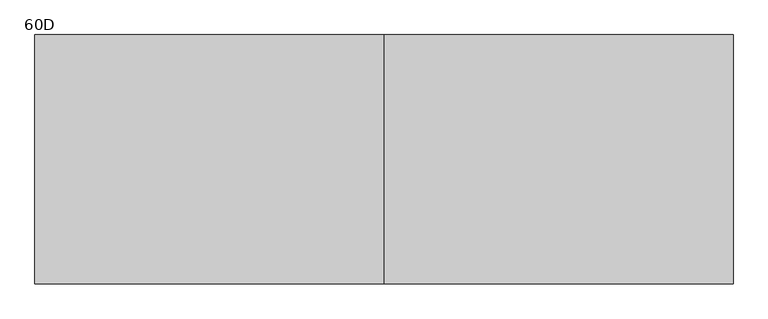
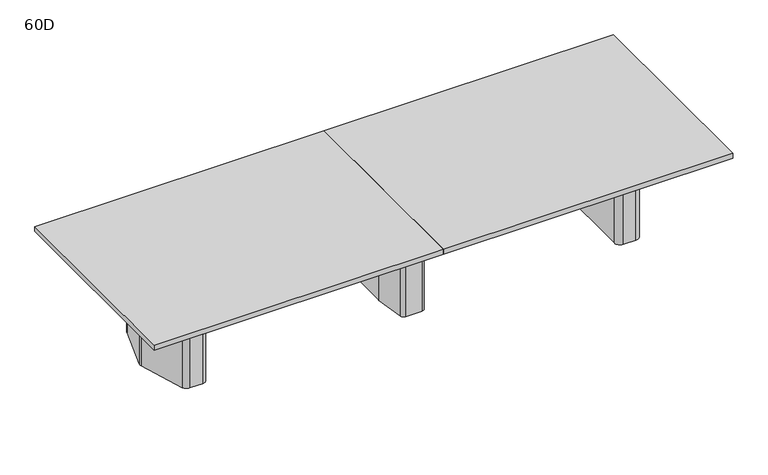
"""IFC4 building model written with IfcOpenShell, lengths in millimetres: furniture geometry, Coalesse_AM_Table_Conference_ETable2_Rectangular_14ft_ThreeBase : 60D."""

from ifc_helpers import new_model, si_unit, point, frame, frame_2d, origin, origin_with_axes, place, context, project, spatial, polyline, circle_curve, trimmed, segment, composite_curve, outline, extrude, source, transform, mapped, element, save
from ifc_brep_helpers import plane_surface, cylinder_surface, revolved_surface, advanced_brep


def furniture_60d_9320f29d(model_context):
    return source(origin(), model_context, "Body", "SolidModel", [
        advanced_brep(
        [(61.0357815, 381.0, 698.5), (-61.0357815, 381.0, 698.5), (-86.1885994, 359.1349332, 698.5), (-117.2278179, 138.2753661, 698.5), (-117.475, 134.740433, 698.5), (-117.475, -134.7404196, 698.5), (-117.2278463, -138.2751502, 698.5), (-86.1904395, -359.1347306, 698.5), (-61.0375932, -381.0, 698.5), (61.0375932, -381.0, 698.5), (86.1904395, -359.1347306, 698.5), (117.2278463, -138.2751502, 698.5), (117.475, -134.7404196, 698.5), (117.475, 134.740433, 698.5), (117.2278179, 138.2753661, 698.5), (86.1885994, 359.1349332, 698.5), (25.4, 314.325, 698.5), (50.8, 288.925, 698.5), (50.8, -288.925, 698.5), (25.4, -314.325, 698.5), (-25.4, -314.325, 698.5), (-50.8, -288.925, 698.5), (-50.8, 288.925, 698.5), (-25.4, 314.325, 698.5), (61.0357815, 381.0, 3.175), (86.1885994, 359.1349332, 3.175), (117.2278179, 138.2753661, 3.175), (117.475, 134.740433, 3.175), (117.475, -134.7404196, 3.175), (117.2278463, -138.2751502, 3.175), (86.1904395, -359.1347306, 3.175), (61.0375932, -381.0, 3.175), (-61.0375932, -381.0, 3.175), (-86.1904395, -359.1347306, 3.175), (-117.2278463, -138.2751502, 3.175), (-117.475, -134.7404196, 3.175), (-117.475, 134.740433, 3.175), (-117.2278179, 138.2753661, 3.175), (-86.1885994, 359.1349332, 3.175), (-61.0357815, 381.0, 3.175), (25.4, 327.025, 3.175), (-25.4, 327.025, 3.175), (-63.5, 288.925, 3.175), (-63.5, -288.925, 3.175), (-25.4, -327.025, 3.175), (25.4, -327.025, 3.175), (63.5, -288.925, 3.175), (63.5, 288.925, 3.175), (25.4, 314.325, 3.175), (50.8, 288.925, 3.175), (50.8, -288.925, 3.175), (25.4, -314.325, 3.175), (-25.4, -314.325, 3.175), (-50.8, -288.925, 3.175), (-50.8, 288.925, 3.175), (-25.4, 314.325, 3.175), (25.4, 327.025, 0.0), (63.5, 288.925, 0.0), (63.5, -288.925, 0.0), (25.4, -327.025, 0.0), (-25.4, -327.025, 0.0), (-63.5, -288.925, 0.0), (-63.5, 288.925, 0.0), (-25.4, 327.025, 0.0)],
        [
            (0, 1),
            (1, 2, circle_curve(frame((-61.0357815, 355.6, 698.5), z_axis=(0.0, 0.0, 1.0), x_axis=(1.0, 0.0, 0.0)), 25.4)),
            (2, 3),
            (3, 4, circle_curve(frame((-92.075, 134.740433, 698.5), z_axis=(0.0, 0.0, 1.0), x_axis=(1.0, 0.0, 0.0)), 25.4)),
            (4, 5),
            (5, 6, circle_curve(frame((-92.075, -134.7404196, 698.5), z_axis=(0.0, 0.0, 1.0), x_axis=(1.0, 0.0, 0.0)), 25.4)),
            (6, 7),
            (7, 8, circle_curve(frame((-61.0375932, -355.6, 698.5), z_axis=(0.0, 0.0, 1.0), x_axis=(1.0, 0.0, 0.0)), 25.4)),
            (8, 9),
            (9, 10, circle_curve(frame((61.0375932, -355.6, 698.5), z_axis=(0.0, 0.0, 1.0), x_axis=(1.0, 0.0, 0.0)), 25.4)),
            (10, 11),
            (11, 12, circle_curve(frame((92.075, -134.7404196, 698.5), z_axis=(0.0, 0.0, 1.0), x_axis=(1.0, 0.0, 0.0)), 25.4)),
            (12, 13),
            (13, 14, circle_curve(frame((92.075, 134.740433, 698.5), z_axis=(0.0, 0.0, 1.0), x_axis=(1.0, 0.0, 0.0)), 25.4)),
            (14, 15),
            (15, 0, circle_curve(frame((61.0357815, 355.6, 698.5), z_axis=(0.0, 0.0, 1.0), x_axis=(1.0, 0.0, 0.0)), 25.4)),
            (16, 17, circle_curve(frame((25.4, 288.925, 698.5), z_axis=(0.0, 0.0, -1.0), x_axis=(1.0, 0.0, 0.0)), 25.4)),
            (17, 18),
            (18, 19, circle_curve(frame((25.4, -288.925, 698.5), z_axis=(0.0, 0.0, -1.0), x_axis=(1.0, 0.0, 0.0)), 25.4)),
            (19, 20),
            (20, 21, circle_curve(frame((-25.4, -288.925, 698.5), z_axis=(0.0, 0.0, -1.0), x_axis=(1.0, 0.0, 0.0)), 25.4)),
            (21, 22),
            (22, 23, circle_curve(frame((-25.4, 288.925, 698.5), z_axis=(0.0, 0.0, -1.0), x_axis=(1.0, 0.0, 0.0)), 25.4)),
            (23, 16),
            (24, 25, circle_curve(frame((61.0357815, 355.6, 3.175), z_axis=(0.0, 0.0, -1.0), x_axis=(1.0, 0.0, 0.0)), 25.4)),
            (25, 26),
            (26, 27, circle_curve(frame((92.075, 134.740433, 3.175), z_axis=(0.0, 0.0, -1.0), x_axis=(1.0, 0.0, 0.0)), 25.4)),
            (27, 28),
            (28, 29, circle_curve(frame((92.075, -134.7404196, 3.175), z_axis=(0.0, 0.0, -1.0), x_axis=(1.0, 0.0, 0.0)), 25.4)),
            (29, 30),
            (30, 31, circle_curve(frame((61.0375932, -355.6, 3.175), z_axis=(0.0, 0.0, -1.0), x_axis=(1.0, 0.0, 0.0)), 25.4)),
            (31, 32),
            (32, 33, circle_curve(frame((-61.0375932, -355.6, 3.175), z_axis=(0.0, 0.0, -1.0), x_axis=(1.0, 0.0, 0.0)), 25.4)),
            (33, 34),
            (34, 35, circle_curve(frame((-92.075, -134.7404196, 3.175), z_axis=(0.0, 0.0, -1.0), x_axis=(1.0, 0.0, 0.0)), 25.4)),
            (35, 36),
            (36, 37, circle_curve(frame((-92.075, 134.740433, 3.175), z_axis=(0.0, 0.0, -1.0), x_axis=(1.0, 0.0, 0.0)), 25.4)),
            (37, 38),
            (38, 39, circle_curve(frame((-61.0357815, 355.6, 3.175), z_axis=(0.0, 0.0, -1.0), x_axis=(1.0, 0.0, 0.0)), 25.4)),
            (39, 24),
            (40, 41),
            (41, 42, circle_curve(frame((-25.4, 288.925, 3.175), z_axis=(0.0, 0.0, 1.0), x_axis=(1.0, 0.0, 0.0)), 38.1)),
            (42, 43),
            (43, 44, circle_curve(frame((-25.4, -288.925, 3.175), z_axis=(0.0, 0.0, 1.0), x_axis=(1.0, 0.0, 0.0)), 38.1)),
            (44, 45),
            (45, 46, circle_curve(frame((25.4, -288.925, 3.175), z_axis=(0.0, 0.0, 1.0), x_axis=(1.0, 0.0, 0.0)), 38.1)),
            (46, 47),
            (47, 40, circle_curve(frame((25.4, 288.925, 3.175), z_axis=(0.0, 0.0, 1.0), x_axis=(1.0, 0.0, 0.0)), 38.1)),
            (0, 24),
            (39, 1),
            (38, 2),
            (37, 3),
            (36, 4),
            (35, 5),
            (34, 6),
            (33, 7),
            (32, 8),
            (31, 9),
            (30, 10),
            (29, 11),
            (28, 12),
            (27, 13),
            (26, 14),
            (25, 15),
            (16, 48),
            (48, 49, circle_curve(frame((25.4, 288.925, 3.175), z_axis=(0.0, 0.0, -1.0), x_axis=(1.0, 0.0, 0.0)), 25.4)),
            (49, 17),
            (49, 50),
            (50, 18),
            (50, 51, circle_curve(frame((25.4, -288.925, 3.175), z_axis=(0.0, 0.0, -1.0), x_axis=(1.0, 0.0, 0.0)), 25.4)),
            (51, 19),
            (51, 52),
            (52, 20),
            (52, 53, circle_curve(frame((-25.4, -288.925, 3.175), z_axis=(0.0, 0.0, -1.0), x_axis=(1.0, 0.0, 0.0)), 25.4)),
            (53, 21),
            (53, 54),
            (54, 22),
            (54, 55, circle_curve(frame((-25.4, 288.925, 3.175), z_axis=(0.0, 0.0, -1.0), x_axis=(1.0, 0.0, 0.0)), 25.4)),
            (55, 23),
            (55, 48),
            (56, 57, circle_curve(frame((25.4, 288.925, 0.0), z_axis=(0.0, 0.0, -1.0), x_axis=(1.0, 0.0, 0.0)), 38.1)),
            (57, 58),
            (58, 59, circle_curve(frame((25.4, -288.925, 0.0), z_axis=(0.0, 0.0, -1.0), x_axis=(1.0, 0.0, 0.0)), 38.1)),
            (59, 60),
            (60, 61, circle_curve(frame((-25.4, -288.925, 0.0), z_axis=(0.0, 0.0, -1.0), x_axis=(1.0, 0.0, 0.0)), 38.1)),
            (61, 62),
            (62, 63, circle_curve(frame((-25.4, 288.925, 0.0), z_axis=(0.0, 0.0, -1.0), x_axis=(1.0, 0.0, 0.0)), 38.1)),
            (63, 56),
            (63, 41),
            (40, 56),
            (62, 42),
            (61, 43),
            (60, 44),
            (59, 45),
            (58, 46),
            (57, 47),
        ],
        [
            plane_surface(frame((-1524.0, 381.0, 698.5), z_axis=(0.0, 0.0, 1.0), x_axis=(-1.0, 0.0, 0.0))),
            plane_surface(frame((-1524.0, 381.0, 3.175), z_axis=(0.0, 0.0, -1.0), x_axis=(1.0, 0.0, 0.0))),
            plane_surface(frame((61.0357815, 381.0, 698.5), z_axis=(0.0, 1.0, 0.0), x_axis=(0.0, 0.0, -1.0))),
            cylinder_surface(frame((-61.0357815, 355.6, 3.175), z_axis=(0.0, 0.0, 1.0), x_axis=(1.0, 0.0, 0.0)), 25.4),
            plane_surface(frame((-86.1885994, 359.1349332, 698.5), z_axis=(-0.9902684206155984, 0.13917059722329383, 0.0), x_axis=(0.0, 0.0, -1.0))),
            cylinder_surface(frame((-92.075, 134.740433, 3.175), z_axis=(0.0, 0.0, 1.0), x_axis=(1.0, 0.0, 0.0)), 25.4),
            plane_surface(frame((-117.475, 134.740433, 698.5), z_axis=(-1.0, 0.0, 0.0), x_axis=(0.0, 0.0, -1.0))),
            cylinder_surface(frame((-92.075, -134.7404196, 3.175), z_axis=(0.0, 0.0, 1.0), x_axis=(1.0, 0.0, 0.0)), 25.4),
            plane_surface(frame((-117.2278463, -138.2751502, 698.5), z_axis=(-0.9902695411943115, -0.1391626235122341, 0.0), x_axis=(0.0, 0.0, -1.0))),
            cylinder_surface(frame((-61.0375932, -355.6, 3.175), z_axis=(0.0, 0.0, 1.0), x_axis=(1.0, 0.0, 0.0)), 25.4),
            plane_surface(frame((-61.0375932, -381.0, 698.5), z_axis=(0.0, -1.0, 0.0), x_axis=(0.0, 0.0, -1.0))),
            cylinder_surface(frame((61.0375932, -355.6, 3.175), z_axis=(0.0, 0.0, 1.0), x_axis=(1.0, 0.0, 0.0)), 25.4),
            plane_surface(frame((86.1904395, -359.1347306, 698.5), z_axis=(0.9902695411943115, -0.1391626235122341, 0.0), x_axis=(0.0, 0.0, -1.0))),
            cylinder_surface(frame((92.075, -134.7404196, 3.175), z_axis=(0.0, 0.0, 1.0), x_axis=(1.0, 0.0, 0.0)), 25.4),
            plane_surface(frame((117.475, -134.7404196, 698.5), z_axis=(1.0, 0.0, 0.0), x_axis=(0.0, 0.0, -1.0))),
            cylinder_surface(frame((92.075, 134.740433, 3.175), z_axis=(0.0, 0.0, 1.0), x_axis=(1.0, 0.0, 0.0)), 25.4),
            plane_surface(frame((117.2278179, 138.2753661, 698.5), z_axis=(0.9902684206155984, 0.13917059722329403, 0.0), x_axis=(0.0, 0.0, -1.0))),
            cylinder_surface(frame((61.0357815, 355.6, 3.175), z_axis=(0.0, 0.0, 1.0), x_axis=(1.0, 0.0, 0.0)), 25.4),
            revolved_surface(polyline([(50.8, 288.925, 3.175), (50.8, 288.925, 698.5)]), (25.4, 288.925, 0.0), (0.0, 0.0, -1.0)),
            plane_surface(frame((50.8, 288.925, 698.5), z_axis=(-1.0, 0.0, 0.0), x_axis=(0.0, 0.0, -1.0))),
            revolved_surface(polyline([(50.8, -288.925, 3.175), (50.8, -288.925, 698.5)]), (25.4, -288.925, 0.0), (0.0, 0.0, -1.0)),
            plane_surface(frame((25.4, -314.325, 698.5), z_axis=(0.0, 1.0, 0.0), x_axis=(0.0, 0.0, -1.0))),
            revolved_surface(polyline([(0.0, -288.925, 3.175), (0.0, -288.925, 698.5)]), (-25.4, -288.925, 0.0), (0.0, 0.0, -1.0)),
            plane_surface(frame((-50.8, -288.925, 698.5), z_axis=(1.0, 0.0, 0.0), x_axis=(0.0, 0.0, -1.0))),
            revolved_surface(polyline([(0.0, 288.925, 3.175), (0.0, 288.925, 698.5)]), (-25.4, 288.925, 0.0), (0.0, 0.0, -1.0)),
            plane_surface(frame((-25.4, 314.325, 698.5), z_axis=(0.0, -1.0, 0.0), x_axis=(0.0, 0.0, -1.0))),
            plane_surface(frame((-50.8, 327.025, 3.175), z_axis=(0.0, 0.0, 1.0), x_axis=(-1.0, 0.0, 0.0))),
            plane_surface(frame((-50.8, 327.025, 0.0), z_axis=(0.0, 0.0, -1.0), x_axis=(1.0, 0.0, 0.0))),
            plane_surface(frame((25.4, 327.025, 3.175), z_axis=(0.0, 1.0, 0.0), x_axis=(0.0, 0.0, -1.0))),
            cylinder_surface(frame((-25.4, 288.925, 0.0), z_axis=(0.0, 0.0, 1.0), x_axis=(1.0, 0.0, 0.0)), 38.1),
            plane_surface(frame((-63.5, 288.925, 3.175), z_axis=(-1.0, 0.0, 0.0), x_axis=(0.0, 0.0, -1.0))),
            cylinder_surface(frame((-25.4, -288.925, 0.0), z_axis=(0.0, 0.0, 1.0), x_axis=(1.0, 0.0, 0.0)), 38.1),
            plane_surface(frame((-25.4, -327.025, 3.175), z_axis=(0.0, -1.0, 0.0), x_axis=(0.0, 0.0, -1.0))),
            cylinder_surface(frame((25.4, -288.925, 0.0), z_axis=(0.0, 0.0, 1.0), x_axis=(1.0, 0.0, 0.0)), 38.1),
            plane_surface(frame((63.5, -288.925, 3.175), z_axis=(1.0, 0.0, 0.0), x_axis=(0.0, 0.0, -1.0))),
            cylinder_surface(frame((25.4, 288.925, 0.0), z_axis=(0.0, 0.0, 1.0), x_axis=(1.0, 0.0, 0.0)), 38.1),
        ],
        [
            (0, [[1, 2, 3, 4, 5, 6, 7, 8, 9, 10, 11, 12, 13, 14, 15, 16], [17, 18, 19, 20, 21, 22, 23, 24]]),
            (1, [[25, 26, 27, 28, 29, 30, 31, 32, 33, 34, 35, 36, 37, 38, 39, 40], [41, 42, 43, 44, 45, 46, 47, 48]]),
            (2, [[-1, 49, -40, 50]]),
            (3, [[-2, -50, -39, 51]]),
            (4, [[-3, -51, -38, 52]]),
            (5, [[-4, -52, -37, 53]]),
            (6, [[-5, -53, -36, 54]]),
            (7, [[-6, -54, -35, 55]]),
            (8, [[-7, -55, -34, 56]]),
            (9, [[-8, -56, -33, 57]]),
            (10, [[-9, -57, -32, 58]]),
            (11, [[-10, -58, -31, 59]]),
            (12, [[-11, -59, -30, 60]]),
            (13, [[-12, -60, -29, 61]]),
            (14, [[-13, -61, -28, 62]]),
            (15, [[-14, -62, -27, 63]]),
            (16, [[-15, -63, -26, 64]]),
            (17, [[-16, -64, -25, -49]]),
            (18, [[-17, 65, 66, 67]]),
            (19, [[-18, -67, 68, 69]]),
            (20, [[-19, -69, 70, 71]]),
            (21, [[-20, -71, 72, 73]]),
            (22, [[-21, -73, 74, 75]]),
            (23, [[-22, -75, 76, 77]]),
            (24, [[-23, -77, 78, 79]]),
            (25, [[-24, -79, 80, -65]]),
            (26, [[-66, -80, -78, -76, -74, -72, -70, -68]]),
            (27, [[81, 82, 83, 84, 85, 86, 87, 88]]),
            (28, [[-88, 89, -41, 90]]),
            (29, [[-87, 91, -42, -89]]),
            (30, [[-86, 92, -43, -91]]),
            (31, [[-85, 93, -44, -92]]),
            (32, [[-84, 94, -45, -93]]),
            (33, [[-83, 95, -46, -94]]),
            (34, [[-82, 96, -47, -95]]),
            (35, [[-81, -90, -48, -96]]),
        ],
    ),
        extrude(outline(composite_curve([segment(polyline([(1731.9625, 101.7236478), (1731.9625, -97.2761514)]), True, "CONTINUOUS"), segment(trimmed(circle_curve(frame_2d((1693.8625, -97.2761514)), 38.1), [point((1731.9625, -97.2761514))], [point((1730.1991129, -108.7330515))], False, "CARTESIAN"), True, "CONTINUOUS"), segment(polyline([(1730.1991129, -108.7330515), (1671.7745591, -294.0319001)]), True, "CONTINUOUS"), segment(trimmed(circle_curve(frame_2d((1635.4379462, -282.575)), 38.1), [point((1671.7745591, -294.0319001))], [point((1635.4379462, -320.675))], False, "CARTESIAN"), True, "CONTINUOUS"), segment(polyline([(1635.4379462, -320.675), (1568.45, -320.675)]), True, "CONTINUOUS"), segment(trimmed(circle_curve(frame_2d((1568.45, -282.575)), 38.1), [point((1568.45, -320.675))], [point((1530.35, -282.575))], False, "CARTESIAN"), True, "CONTINUOUS"), segment(polyline([(1530.35, -282.575), (1530.35, 282.575)]), True, "CONTINUOUS"), segment(trimmed(circle_curve(frame_2d((1568.45, 282.575)), 38.1), [point((1530.35, 282.575))], [point((1568.45, 320.675))], False, "CARTESIAN"), True, "CONTINUOUS"), segment(polyline([(1568.45, 320.675), (1639.1873998, 320.675)]), True, "CONTINUOUS"), segment(trimmed(circle_curve(frame_2d((1639.1873998, 282.575)), 38.1), [point((1639.1873998, 320.675))], [point((1675.6572049, 293.6005756))], False, "CARTESIAN"), True, "CONTINUOUS"), segment(polyline([(1675.6572049, 293.6005756), (1730.3323051, 112.7492234)]), True, "CONTINUOUS"), segment(trimmed(circle_curve(frame_2d((1693.8625, 101.7236478)), 38.1), [point((1730.3323051, 112.7492234))], [point((1731.9625, 101.7236478))], False, "CARTESIAN"), True, "CONTINUOUS")], self_intersect=False)), origin_with_axes(), (0.0, 0.0, 1.0), 3.175),
        extrude(outline(composite_curve([segment(polyline([(1552.575, 381.0), (1640.7221663, 381.0)]), True, "CONTINUOUS"), segment(trimmed(circle_curve(frame_2d((1640.7221663, 339.725)), 41.275), [point((1640.7221663, 381.0))], [point((1680.0868303, 352.1366418))], False, "CARTESIAN"), True, "CONTINUOUS"), segment(polyline([(1680.0868303, 352.1366418), (1787.2018053, 12.4116418)]), True, "CONTINUOUS"), segment(trimmed(circle_curve(frame_2d((1747.8371413, 0.0)), 41.275), [point((1787.2018053, 12.4116418))], [point((1787.2018053, -12.4116418))], False, "CARTESIAN"), True, "CONTINUOUS"), segment(polyline([(1787.2018053, -12.4116418), (1680.0868303, -352.1366418)]), True, "CONTINUOUS"), segment(trimmed(circle_curve(frame_2d((1640.7221663, -339.725)), 41.275), [point((1680.0868303, -352.1366418))], [point((1640.7221663, -381.0))], False, "CARTESIAN"), True, "CONTINUOUS"), segment(polyline([(1640.7221663, -381.0), (1546.225, -381.0)]), True, "CONTINUOUS"), segment(trimmed(circle_curve(frame_2d((1546.225, -339.725)), 41.275), [point((1546.225, -381.0))], [point((1504.95, -339.725))], False, "CARTESIAN"), True, "CONTINUOUS"), segment(polyline([(1504.95, -339.725), (1504.95, 333.375)]), True, "CONTINUOUS"), segment(trimmed(circle_curve(frame_2d((1552.575, 333.375)), 47.625), [point((1504.95, 333.375))], [point((1552.575, 381.0))], False, "CARTESIAN"), True, "CONTINUOUS")], self_intersect=False), holes=[composite_curve([segment(trimmed(circle_curve(frame_2d((1568.45, -282.575)), 25.4), [point((1543.05, -282.575))], [point((1568.45, -307.975))], True, "CARTESIAN"), True, "CONTINUOUS"), segment(polyline([(1568.45, -307.975), (1635.4379462, -307.975)]), True, "CONTINUOUS"), segment(trimmed(circle_curve(frame_2d((1635.4379462, -282.575)), 25.4), [point((1635.4379462, -307.975))], [point((1659.6623548, -290.2129334))], True, "CARTESIAN"), True, "CONTINUOUS"), segment(polyline([(1659.6623548, -290.2129334), (1718.0869086, -104.9140848)]), True, "CONTINUOUS"), segment(trimmed(circle_curve(frame_2d((1693.8625, -97.2761514)), 25.4), [point((1718.0869086, -104.9140848))], [point((1719.2625, -97.2761514))], True, "CARTESIAN"), True, "CONTINUOUS"), segment(polyline([(1719.2625, -97.2761514), (1719.2625, 101.7236478)]), True, "CONTINUOUS"), segment(trimmed(circle_curve(frame_2d((1693.8625, 101.7236478)), 25.4), [point((1719.2625, 101.7236478))], [point((1718.1757034, 109.0740316))], True, "CARTESIAN"), True, "CONTINUOUS"), segment(polyline([(1718.1757034, 109.0740316), (1663.5006032, 289.9253837)]), True, "CONTINUOUS"), segment(trimmed(circle_curve(frame_2d((1639.1873998, 282.575)), 25.4), [point((1663.5006032, 289.9253837))], [point((1639.1873998, 307.975))], True, "CARTESIAN"), True, "CONTINUOUS"), segment(polyline([(1639.1873998, 307.975), (1568.45, 307.975)]), True, "CONTINUOUS"), segment(trimmed(circle_curve(frame_2d((1568.45, 282.575)), 25.4), [point((1568.45, 307.975))], [point((1543.05, 282.575))], True, "CARTESIAN"), True, "CONTINUOUS"), segment(polyline([(1543.05, 282.575), (1543.05, -282.575)]), True, "CONTINUOUS")], self_intersect=False)]), frame((0.0, 0.0, 3.175), z_axis=(0.0, 0.0, 1.0), x_axis=(1.0, 0.0, 0.0)), (0.0, 0.0, 1.0), 695.325),
        extrude(outline(composite_curve([segment(trimmed(circle_curve(frame_2d((-1704.975, 101.7236478)), 38.1), [point((-1743.075, 101.7236478))], [point((-1741.4448051, 112.7492234))], False, "CARTESIAN"), True, "CONTINUOUS"), segment(polyline([(-1741.4448051, 112.7492234), (-1686.7697049, 293.6005756)]), True, "CONTINUOUS"), segment(trimmed(circle_curve(frame_2d((-1650.2998998, 282.575)), 38.1), [point((-1686.7697049, 293.6005756))], [point((-1650.2998998, 320.675))], False, "CARTESIAN"), True, "CONTINUOUS"), segment(polyline([(-1650.2998998, 320.675), (-1579.5625, 320.675)]), True, "CONTINUOUS"), segment(trimmed(circle_curve(frame_2d((-1579.5625, 282.575)), 38.1), [point((-1579.5625, 320.675))], [point((-1541.4625, 282.575))], False, "CARTESIAN"), True, "CONTINUOUS"), segment(polyline([(-1541.4625, 282.575), (-1541.4625, -282.575)]), True, "CONTINUOUS"), segment(trimmed(circle_curve(frame_2d((-1579.5625, -282.575)), 38.1), [point((-1541.4625, -282.575))], [point((-1579.5625, -320.675))], False, "CARTESIAN"), True, "CONTINUOUS"), segment(polyline([(-1579.5625, -320.675), (-1646.5504462, -320.675)]), True, "CONTINUOUS"), segment(trimmed(circle_curve(frame_2d((-1646.5504462, -282.575)), 38.1), [point((-1646.5504462, -320.675))], [point((-1682.8870591, -294.0319001))], False, "CARTESIAN"), True, "CONTINUOUS"), segment(polyline([(-1682.8870591, -294.0319001), (-1741.3116129, -108.7330515)]), True, "CONTINUOUS"), segment(trimmed(circle_curve(frame_2d((-1704.975, -97.2761514)), 38.1), [point((-1741.3116129, -108.7330515))], [point((-1743.075, -97.2761514))], False, "CARTESIAN"), True, "CONTINUOUS"), segment(polyline([(-1743.075, -97.2761514), (-1743.075, 101.7236478)]), True, "CONTINUOUS")], self_intersect=False)), origin_with_axes(), (0.0, 0.0, 1.0), 3.175),
        extrude(outline(composite_curve([segment(trimmed(circle_curve(frame_2d((-1563.6875, 333.375)), 47.625), [point((-1563.6875, 381.0))], [point((-1516.0625, 333.375))], False, "CARTESIAN"), True, "CONTINUOUS"), segment(polyline([(-1516.0625, 333.375), (-1516.0625, -339.725)]), True, "CONTINUOUS"), segment(trimmed(circle_curve(frame_2d((-1557.3375, -339.725)), 41.275), [point((-1516.0625, -339.725))], [point((-1557.3375, -381.0))], False, "CARTESIAN"), True, "CONTINUOUS"), segment(polyline([(-1557.3375, -381.0), (-1651.8346663, -381.0)]), True, "CONTINUOUS"), segment(trimmed(circle_curve(frame_2d((-1651.8346663, -339.725)), 41.275), [point((-1651.8346663, -381.0))], [point((-1691.1993303, -352.1366418))], False, "CARTESIAN"), True, "CONTINUOUS"), segment(polyline([(-1691.1993303, -352.1366418), (-1798.3143053, -12.4116418)]), True, "CONTINUOUS"), segment(trimmed(circle_curve(frame_2d((-1758.9496413, 0.0)), 41.275), [point((-1798.3143053, -12.4116418))], [point((-1798.3143053, 12.4116418))], False, "CARTESIAN"), True, "CONTINUOUS"), segment(polyline([(-1798.3143053, 12.4116418), (-1691.1993303, 352.1366418)]), True, "CONTINUOUS"), segment(trimmed(circle_curve(frame_2d((-1651.8346663, 339.725)), 41.275), [point((-1691.1993303, 352.1366418))], [point((-1651.8346663, 381.0))], False, "CARTESIAN"), True, "CONTINUOUS"), segment(polyline([(-1651.8346663, 381.0), (-1563.6875, 381.0)]), True, "CONTINUOUS")], self_intersect=False), holes=[composite_curve([segment(polyline([(-1554.1625, -282.575), (-1554.1625, 282.575)]), True, "CONTINUOUS"), segment(trimmed(circle_curve(frame_2d((-1579.5625, 282.575)), 25.4), [point((-1554.1625, 282.575))], [point((-1579.5625, 307.975))], True, "CARTESIAN"), True, "CONTINUOUS"), segment(polyline([(-1579.5625, 307.975), (-1650.2998998, 307.975)]), True, "CONTINUOUS"), segment(trimmed(circle_curve(frame_2d((-1650.2998998, 282.575)), 25.4), [point((-1650.2998998, 307.975))], [point((-1674.6131032, 289.9253837))], True, "CARTESIAN"), True, "CONTINUOUS"), segment(polyline([(-1674.6131032, 289.9253837), (-1729.2882034, 109.0740316)]), True, "CONTINUOUS"), segment(trimmed(circle_curve(frame_2d((-1704.975, 101.7236478)), 25.4), [point((-1729.2882034, 109.0740316))], [point((-1730.375, 101.7236478))], True, "CARTESIAN"), True, "CONTINUOUS"), segment(polyline([(-1730.375, 101.7236478), (-1730.375, -97.2761514)]), True, "CONTINUOUS"), segment(trimmed(circle_curve(frame_2d((-1704.975, -97.2761514)), 25.4), [point((-1730.375, -97.2761514))], [point((-1729.1994086, -104.9140848))], True, "CARTESIAN"), True, "CONTINUOUS"), segment(polyline([(-1729.1994086, -104.9140848), (-1670.7748548, -290.2129334)]), True, "CONTINUOUS"), segment(trimmed(circle_curve(frame_2d((-1646.5504462, -282.575)), 25.4), [point((-1670.7748548, -290.2129334))], [point((-1646.5504462, -307.975))], True, "CARTESIAN"), True, "CONTINUOUS"), segment(polyline([(-1646.5504462, -307.975), (-1579.5625, -307.975)]), True, "CONTINUOUS"), segment(trimmed(circle_curve(frame_2d((-1579.5625, -282.575)), 25.4), [point((-1579.5625, -307.975))], [point((-1554.1625, -282.575))], True, "CARTESIAN"), True, "CONTINUOUS")], self_intersect=False)]), frame((0.0, 0.0, 3.175), z_axis=(0.0, 0.0, 1.0), x_axis=(1.0, 0.0, 0.0)), (0.0, 0.0, 1.0), 695.325),
        extrude(outline(polyline([(2133.6, 762.0), (2133.6, -762.0), (0.0, -762.0), (0.0, 762.0), (2133.6, 762.0)])), frame((0.0, 0.0, 698.5), z_axis=(0.0, 0.0, 1.0), x_axis=(1.0, 0.0, 0.0)), (0.0, 0.0, 1.0), 38.1),
        extrude(outline(polyline([(0.0, 762.0), (0.0, -762.0), (-2133.6, -762.0), (-2133.6, 762.0), (0.0, 762.0)])), frame((0.0, 0.0, 698.5), z_axis=(0.0, 0.0, 1.0), x_axis=(1.0, 0.0, 0.0)), (0.0, 0.0, 1.0), 38.1),
        extrude(outline(polyline([(96.8375, 698.5), (103.1875, 698.5), (103.1875, 476.25), (-103.1875, 476.25), (-103.1875, 698.5), (-96.8375, 698.5), (-96.8375, 482.6), (96.8375, 482.6), (96.8375, 698.5)])), frame((-1516.0625, 0.0, 0.0), z_axis=(1.0, 0.0, 0.0), x_axis=(0.0, 1.0, 0.0)), (0.0, 0.0, 1.0), 3021.0125),
    ])


if __name__ == "__main__":
    model = new_model("IFC4")
    model_context = context("Model", 3, world=origin())
    ifc_project = project(units=[si_unit("LENGTHUNIT", "METRE", prefix="MILLI")], contexts=[model_context])
    site = spatial("IfcSite", under=ifc_project)
    building = spatial("IfcBuilding", under=site)
    placement = place(None, origin())
    furniture_60d_shape = furniture_60d_9320f29d(model_context)
    element("IfcFurniture", 1, ObjectType="Coalesse_AM_Table_Conference_ETable2_Rectangular_14ft_ThreeBase : 60D", at=placement, inside=building, context=model_context, shape_type="MappedRepresentation", body=[
        mapped(furniture_60d_shape, transform((0.0, 0.0, 0.0), x_axis=(1.0, 0.0, 0.0), y_axis=(0.0, 1.0, 0.0), z_axis=(0.0, 0.0, 1.0))),
    ])
    save(model, "model.ifc")
